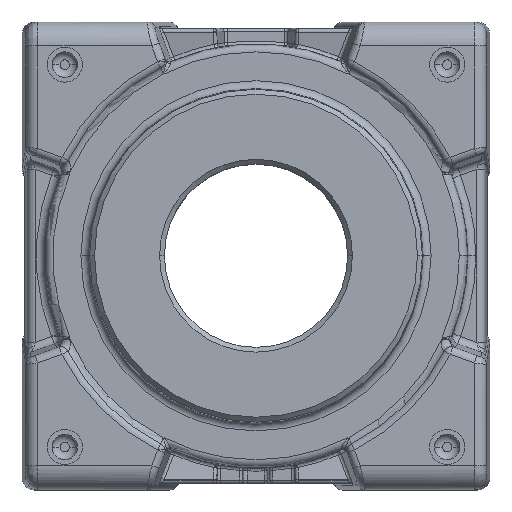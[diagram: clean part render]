
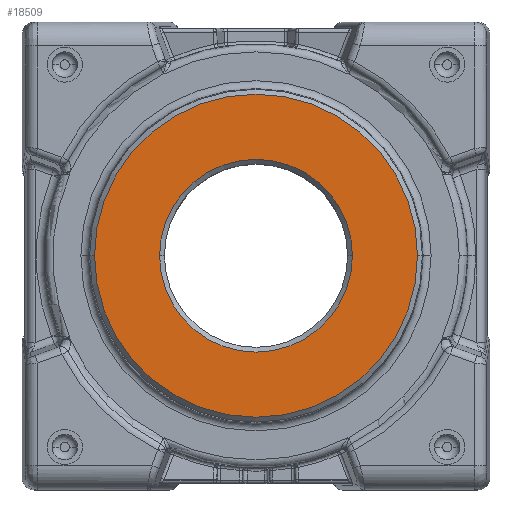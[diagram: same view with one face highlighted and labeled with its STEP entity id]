
A CAD part, top view. The second image highlights one B-rep face of the part: STEP entity #18509.
In plain terms, the highlighted planar face has unit normal (0, 0, 1).
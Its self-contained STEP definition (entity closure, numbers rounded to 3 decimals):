
#617 = DIRECTION ( 'NONE',  ( 0., 0., -1. ) ) ;
#852 = CARTESIAN_POINT ( 'NONE',  ( -6.05, 0., 16.8 ) ) ;
#1106 = DIRECTION ( 'NONE',  ( 0., 0., 1. ) ) ;
#1133 = AXIS2_PLACEMENT_3D ( 'NONE', #20049, #1106, #21986 ) ;
#2289 = AXIS2_PLACEMENT_3D ( 'NONE', #14745, #20928, #18308 ) ;
#2346 = EDGE_LOOP ( 'NONE', ( #3339, #16039 ) ) ;
#3339 = ORIENTED_EDGE ( 'NONE', *, *, #4948, .T. ) ;
#4072 = FACE_OUTER_BOUND ( 'NONE', #26101, .T. ) ;
#4630 = AXIS2_PLACEMENT_3D ( 'NONE', #19234, #8595, #12646 ) ;
#4948 = EDGE_CURVE ( 'NONE', #25966, #22721, #26909, .T. ) ;
#6881 = VERTEX_POINT ( 'NONE', #11394 ) ;
#7478 = AXIS2_PLACEMENT_3D ( 'NONE', #23713, #25774, #17363 ) ;
#8418 = EDGE_CURVE ( 'NONE', #22721, #25966, #9844, .T. ) ;
#8595 = DIRECTION ( 'NONE',  ( 0., 0., 1. ) ) ;
#9844 = CIRCLE ( 'NONE', #9865, 6.05 ) ;
#9865 = AXIS2_PLACEMENT_3D ( 'NONE', #19719, #617, #13249 ) ;
#10838 = CIRCLE ( 'NONE', #4630, 10.135 ) ;
#11209 = ORIENTED_EDGE ( 'NONE', *, *, #13195, .T. ) ;
#11394 = CARTESIAN_POINT ( 'NONE',  ( 10.135, 0., 16.8 ) ) ;
#12054 = CARTESIAN_POINT ( 'NONE',  ( 6.05, 0., 16.8 ) ) ;
#12535 = PLANE ( 'NONE',  #2289 ) ;
#12646 = DIRECTION ( 'NONE',  ( 1., 0., 0. ) ) ;
#13195 = EDGE_CURVE ( 'NONE', #15322, #6881, #10838, .T. ) ;
#13249 = DIRECTION ( 'NONE',  ( 1., 0., 0. ) ) ;
#14745 = CARTESIAN_POINT ( 'NONE',  ( 0., 0., 16.8 ) ) ;
#15322 = VERTEX_POINT ( 'NONE', #17846 ) ;
#16039 = ORIENTED_EDGE ( 'NONE', *, *, #8418, .T. ) ;
#17363 = DIRECTION ( 'NONE',  ( 1., 0., 0. ) ) ;
#17846 = CARTESIAN_POINT ( 'NONE',  ( -10.135, 0., 16.8 ) ) ;
#18308 = DIRECTION ( 'NONE',  ( 1., 0., 0. ) ) ;
#18458 = FACE_BOUND ( 'NONE', #2346, .T. ) ;
#18509 = ADVANCED_FACE ( 'NONE', ( #18458, #4072 ), #12535, .T. ) ;
#19225 = CIRCLE ( 'NONE', #1133, 10.135 ) ;
#19234 = CARTESIAN_POINT ( 'NONE',  ( 0., 0., 16.8 ) ) ;
#19719 = CARTESIAN_POINT ( 'NONE',  ( 0., 0., 16.8 ) ) ;
#19857 = EDGE_CURVE ( 'NONE', #6881, #15322, #19225, .T. ) ;
#20049 = CARTESIAN_POINT ( 'NONE',  ( 0., 0., 16.8 ) ) ;
#20928 = DIRECTION ( 'NONE',  ( 0., 0., 1. ) ) ;
#21986 = DIRECTION ( 'NONE',  ( 1., 0., 0. ) ) ;
#22721 = VERTEX_POINT ( 'NONE', #852 ) ;
#23713 = CARTESIAN_POINT ( 'NONE',  ( 0., 0., 16.8 ) ) ;
#24306 = ORIENTED_EDGE ( 'NONE', *, *, #19857, .T. ) ;
#25774 = DIRECTION ( 'NONE',  ( 0., 0., -1. ) ) ;
#25966 = VERTEX_POINT ( 'NONE', #12054 ) ;
#26101 = EDGE_LOOP ( 'NONE', ( #11209, #24306 ) ) ;
#26909 = CIRCLE ( 'NONE', #7478, 6.05 ) ;
